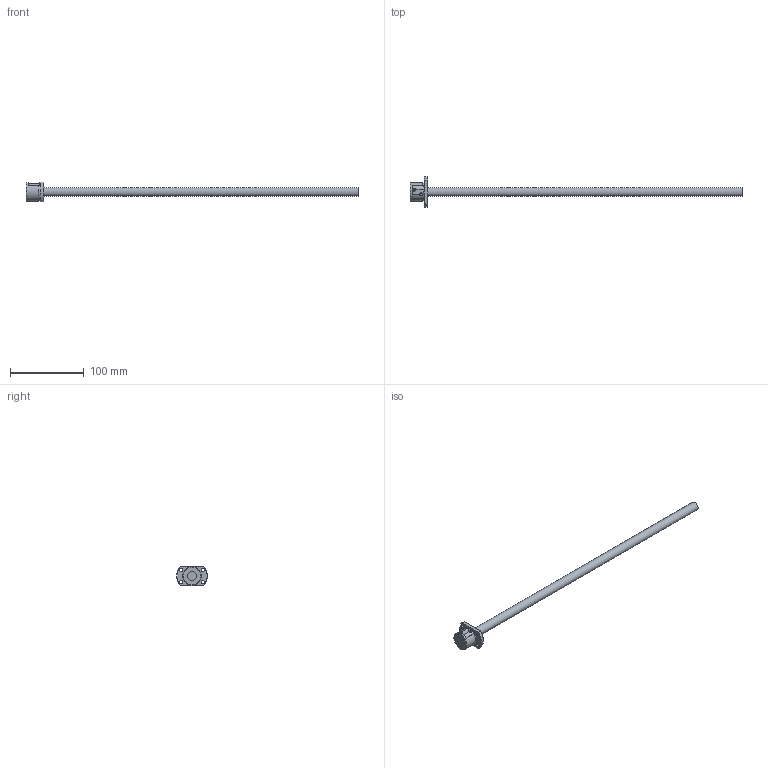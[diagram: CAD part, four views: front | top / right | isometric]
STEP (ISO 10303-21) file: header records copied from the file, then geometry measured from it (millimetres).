
FILE_DESCRIPTION( ( 'STEP AP203' ), '1' );
FILE_NAME( 'e:/temp/worker_101/temp/exporttempdir_1584_1758_Zm2VK/format_0/SR1202-450R450C10(0).stp', '2021-10-19T04:00:44', ( 'License CC BY-ND 4.0' ), ( 'CADENAS' ), ' ', 'PARTsolutions', ' ' );
FILE_SCHEMA( ( 'CONFIG_CONTROL_DESIGN' ) );
Length unit declared in the file: millimetre
Products named in the file (3): SR1202-450R450C10(0); _SR1202-450R450C10C10(0)_shaft; _SR1202-450R450C10C10_nut
Assembly tree (2 placements, depth 2):
  SR1202-450R450C10(0)
    _SR1202-450R450C10C10(0)_shaft
    _SR1202-450R450C10C10_nut
Bounding box: 450 x 42 x 27 mm (x, y, z)
Volume: 62143.2 mm3; surface area: 22258.3 mm2
Topology: 2 solids, 2 shells, 54 faces, 142 edges, 93 vertices
Faces by surface type: plane 23, cylinder 22, cone 9
Full cylindrical faces by diameter (mm): 1.07 x2, 4.5 x4, 12 x2, 24.5 x1, 25 x1
Entity records: 1728 total; most frequent: CARTESIAN_POINT 351, DIRECTION 270, ORIENTED_EDGE 242, EDGE_CURVE 121, AXIS2_PLACEMENT_3D 110, VERTEX_POINT 87, EDGE_LOOP 80, FACE_OUTER_BOUND 64
